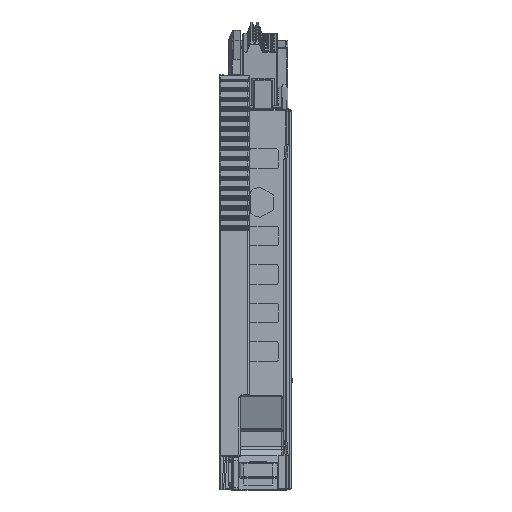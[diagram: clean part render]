
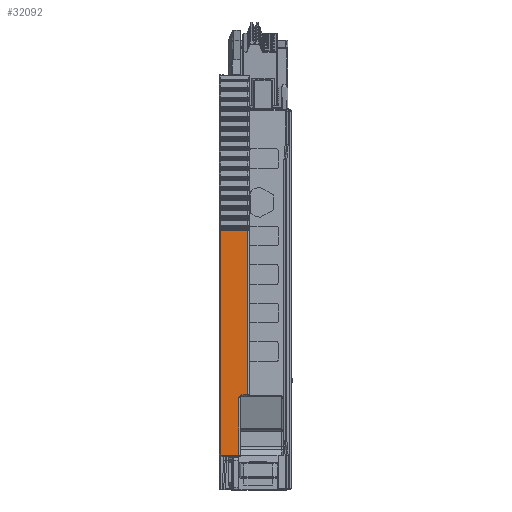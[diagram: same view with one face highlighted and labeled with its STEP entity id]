
A CAD part, front view. The second image highlights one B-rep face of the part: STEP entity #32092.
In plain terms, the highlighted planar face has unit normal (0, -1, 0).
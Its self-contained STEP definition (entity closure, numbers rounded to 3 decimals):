
#1232 = FACE_OUTER_BOUND ( 'NONE', #216680, .T. ) ;
#2545 = VECTOR ( 'NONE', #21066, 1000. ) ;
#4127 = CARTESIAN_POINT ( 'NONE',  ( -3.3, -52.5, 13.1 ) ) ;
#7768 = DIRECTION ( 'NONE',  ( 0., 0., 1. ) ) ;
#9737 = DIRECTION ( 'NONE',  ( 0., 0., 1. ) ) ;
#14351 = ORIENTED_EDGE ( 'NONE', *, *, #202465, .T. ) ;
#18363 = CARTESIAN_POINT ( 'NONE',  ( -7.6, -52.5, 46.995 ) ) ;
#19543 = ORIENTED_EDGE ( 'NONE', *, *, #159202, .T. ) ;
#19833 = VERTEX_POINT ( 'NONE', #76662 ) ;
#21066 = DIRECTION ( 'NONE',  ( 0., 0., -1. ) ) ;
#21344 = EDGE_CURVE ( 'NONE', #135613, #71085, #45279, .T. ) ;
#24438 = VECTOR ( 'NONE', #7768, 1000. ) ;
#32092 = ADVANCED_FACE ( 'NONE', ( #1232 ), #141875, .F. ) ;
#35726 = CARTESIAN_POINT ( 'NONE',  ( -7.5, -52.5, 1.4 ) ) ;
#37711 = CARTESIAN_POINT ( 'NONE',  ( -3.9, -52.5, 13.1 ) ) ;
#38569 = EDGE_CURVE ( 'NONE', #71085, #19833, #137756, .T. ) ;
#41465 = ORIENTED_EDGE ( 'NONE', *, *, #94904, .T. ) ;
#43189 = VERTEX_POINT ( 'NONE', #103025 ) ;
#45279 = LINE ( 'NONE', #37711, #24438 ) ;
#47047 = CIRCLE ( 'NONE', #71591, 0.4 ) ;
#49422 = VERTEX_POINT ( 'NONE', #187694 ) ;
#60171 = VECTOR ( 'NONE', #171806, 1000. ) ;
#67097 = CARTESIAN_POINT ( 'NONE',  ( -3.9, -52.5, 1.4 ) ) ;
#71085 = VERTEX_POINT ( 'NONE', #78239 ) ;
#71591 = AXIS2_PLACEMENT_3D ( 'NONE', #128241, #163933, #212120 ) ;
#72819 = AXIS2_PLACEMENT_3D ( 'NONE', #4127, #103471, #104203 ) ;
#75947 = LINE ( 'NONE', #35726, #104655 ) ;
#76662 = CARTESIAN_POINT ( 'NONE',  ( -3.3, -52.5, 13.7 ) ) ;
#78239 = CARTESIAN_POINT ( 'NONE',  ( -3.9, -52.5, 13.1 ) ) ;
#91205 = CARTESIAN_POINT ( 'NONE',  ( -2.1, -52.5, 13.7 ) ) ;
#94904 = EDGE_CURVE ( 'NONE', #19833, #193623, #213136, .T. ) ;
#103025 = CARTESIAN_POINT ( 'NONE',  ( -7.2, -52.5, 1.4 ) ) ;
#103471 = DIRECTION ( 'NONE',  ( 0., 1., 0. ) ) ;
#104203 = DIRECTION ( 'NONE',  ( -1., 0., 0. ) ) ;
#104655 = VECTOR ( 'NONE', #119821, 1000. ) ;
#115891 = EDGE_CURVE ( 'NONE', #49422, #43189, #47047, .T. ) ;
#119821 = DIRECTION ( 'NONE',  ( 1., 0., 0. ) ) ;
#120801 = CARTESIAN_POINT ( 'NONE',  ( -7.5, -52.5, 46.995 ) ) ;
#125751 = VECTOR ( 'NONE', #9737, 1000. ) ;
#128241 = CARTESIAN_POINT ( 'NONE',  ( -7.2, -52.5, 1.8 ) ) ;
#128635 = VERTEX_POINT ( 'NONE', #178624 ) ;
#133555 = ORIENTED_EDGE ( 'NONE', *, *, #194053, .T. ) ;
#135613 = VERTEX_POINT ( 'NONE', #67097 ) ;
#135987 = LINE ( 'NONE', #120801, #60171 ) ;
#137756 = CIRCLE ( 'NONE', #72819, 0.6 ) ;
#141161 = LINE ( 'NONE', #186782, #2545 ) ;
#141875 = PLANE ( 'NONE',  #191652 ) ;
#147530 = DIRECTION ( 'NONE',  ( 1., 0., 0. ) ) ;
#149587 = VERTEX_POINT ( 'NONE', #18363 ) ;
#154390 = ORIENTED_EDGE ( 'NONE', *, *, #115891, .T. ) ;
#159202 = EDGE_CURVE ( 'NONE', #43189, #135613, #75947, .T. ) ;
#163933 = DIRECTION ( 'NONE',  ( 0., -1., 0. ) ) ;
#171806 = DIRECTION ( 'NONE',  ( -1., 0., 0. ) ) ;
#173261 = DIRECTION ( 'NONE',  ( -1., 0., 0. ) ) ;
#175682 = ORIENTED_EDGE ( 'NONE', *, *, #21344, .T. ) ;
#178624 = CARTESIAN_POINT ( 'NONE',  ( -2.1, -52.5, 46.995 ) ) ;
#186782 = CARTESIAN_POINT ( 'NONE',  ( -7.6, -52.5, 125.518 ) ) ;
#187694 = CARTESIAN_POINT ( 'NONE',  ( -7.6, -52.5, 1.8 ) ) ;
#190011 = ORIENTED_EDGE ( 'NONE', *, *, #38569, .T. ) ;
#191478 = DIRECTION ( 'NONE',  ( 0., 1., 0. ) ) ;
#191652 = AXIS2_PLACEMENT_3D ( 'NONE', #206875, #191478, #173261 ) ;
#192326 = CARTESIAN_POINT ( 'NONE',  ( -2.1, -52.5, 125.518 ) ) ;
#193623 = VERTEX_POINT ( 'NONE', #91205 ) ;
#194053 = EDGE_CURVE ( 'NONE', #128635, #149587, #135987, .T. ) ;
#198611 = CARTESIAN_POINT ( 'NONE',  ( -7.5, -52.5, 13.7 ) ) ;
#200709 = EDGE_CURVE ( 'NONE', #149587, #49422, #141161, .T. ) ;
#202465 = EDGE_CURVE ( 'NONE', #193623, #128635, #209320, .T. ) ;
#202925 = ORIENTED_EDGE ( 'NONE', *, *, #200709, .T. ) ;
#206875 = CARTESIAN_POINT ( 'NONE',  ( -7.5, -52.5, 125.518 ) ) ;
#207991 = VECTOR ( 'NONE', #147530, 1000. ) ;
#209320 = LINE ( 'NONE', #192326, #125751 ) ;
#212120 = DIRECTION ( 'NONE',  ( -1., 0., 0. ) ) ;
#213136 = LINE ( 'NONE', #198611, #207991 ) ;
#216680 = EDGE_LOOP ( 'NONE', ( #14351, #133555, #202925, #154390, #19543, #175682, #190011, #41465 ) ) ;
